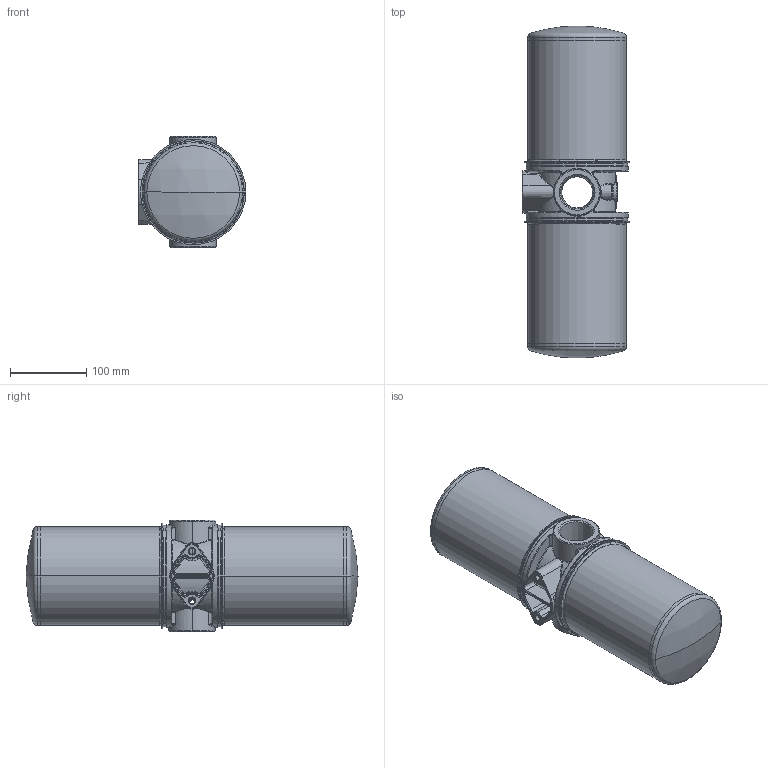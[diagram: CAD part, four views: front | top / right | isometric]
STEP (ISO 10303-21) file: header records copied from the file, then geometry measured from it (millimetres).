
FILE_DESCRIPTION (( 'STEP AP203' ), '1' );
FILE_NAME ('OMTI20.STEP', '2015-10-26T10:44:00', ( '' ), ( '' ), 'SwSTEP 2.0', 'SolidWorks 2015', '' );
FILE_SCHEMA (( 'CONFIG_CONTROL_DESIGN' ));
Length unit declared in the file: millimetre
Products named in the file (1): OMTI20
Bounding box: 141 x 435 x 146 mm (x, y, z)
Surface area: 281611.2 mm2 (no closed solid volume)
Topology: 0 solids, 14 shells, 346 faces, 1022 edges, 640 vertices
Faces by surface type: bspline 91, torus 76, cylinder 70, cone 66, plane 34, sphere 9
Entity records: 22495 total; most frequent: CARTESIAN_POINT 14084, ORIENTED_EDGE 1746, DIRECTION 1652, EDGE_CURVE 1014, AXIS2_PLACEMENT_3D 736, VERTEX_POINT 640, CIRCLE 480, EDGE_LOOP 383
